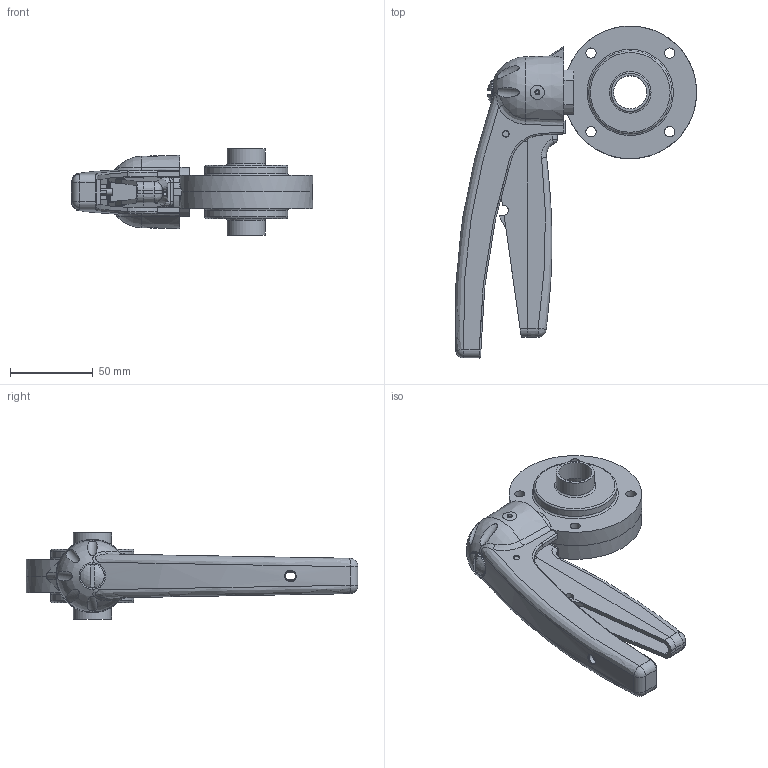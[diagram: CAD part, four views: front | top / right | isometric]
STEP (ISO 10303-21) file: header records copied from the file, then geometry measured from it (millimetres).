
FILE_DESCRIPTION(/* description */ ('VVF VALV.FARF.DN20 (23X1.5) SS EPDM 316 LEVA 5POS.'),/* implementation_level */ '2;1');
FILE_NAME(/* name */ 'C:\_DED_PWS\GIOR-G\DB\B\EBA\BEBACG020BEAA-00^SAGOMA.step',/* time_stamp */ '2020-08-31T09:07:43+02:00',/* author */ (''),/* organization */ (''),/* preprocessor_version */ 'ST-DEVELOPER v18',/* originating_system */ 'Autodesk Inventor 2020',/* authorisation */ '');
FILE_SCHEMA (('CONFIG_CONTROL_DESIGN'));
Length unit declared in the file: millimetre
Products named in the file (3): BEBACG020BEAA; Maniglia-5-posizioni-nuova-versione finale 01-2008- 25 - - 65; TWD006020BBA
Assembly tree (3 placements, depth 2):
  BEBACG020BEAA
    Maniglia-5-posizioni-nuova-versione finale 01-2008- 25 - - 65
    TWD006020BBA  x2
Bounding box: 145.39 x 200 x 52 mm (x, y, z)
Volume: 183946.2 mm3; surface area: 87191.9 mm2
Topology: 3 solids, 4 shells, 454 faces, 1229 edges, 798 vertices
Faces by surface type: plane 196, cylinder 110, bspline 81, cone 32, sphere 20, torus 15
Full cylindrical faces by diameter (mm): 4 x3, 6 x2, 6.2 x8, 6.5 x1, 13 x1, 14.5 x1, 20 x2, 23 x2, 32.8 x2, 41.3 x2, 50 x2, 80 x2
Entity records: 22846 total; most frequent: CARTESIAN_POINT 12147, ORIENTED_EDGE 2296, DIRECTION 1950, EDGE_CURVE 1148, VERTEX_POINT 740, AXIS2_PLACEMENT_3D 706, LINE 538, VECTOR 538
